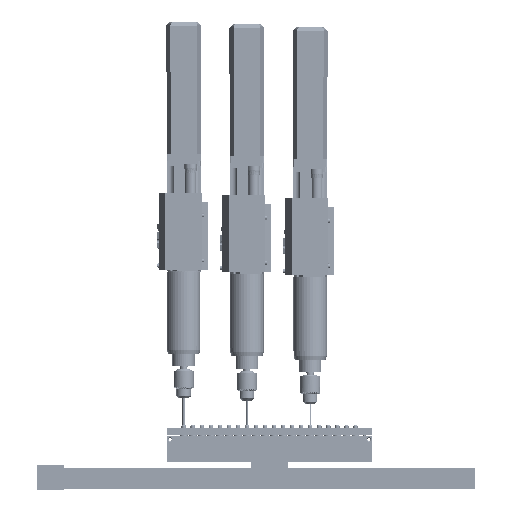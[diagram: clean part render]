
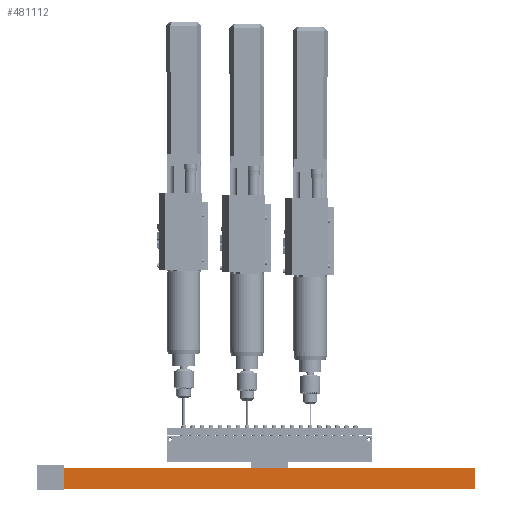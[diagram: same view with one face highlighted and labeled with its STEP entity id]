
A CAD part, front view. The second image highlights one B-rep face of the part: STEP entity #481112.
In plain terms, the highlighted planar face has unit normal (0, -1, 0).
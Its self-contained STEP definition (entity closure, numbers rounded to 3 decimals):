
#480492 = VERTEX_POINT('',#480493);
#480493 = CARTESIAN_POINT('',(-455.,-130.7,-93.8));
#480502 = PLANE('',#480503);
#480503 = AXIS2_PLACEMENT_3D('',#480504,#480505,#480506);
#480504 = CARTESIAN_POINT('',(-455.,-130.7,-139.8));
#480505 = DIRECTION('',(1.,0.,0.));
#480506 = DIRECTION('',(0.,0.,1.));
#480514 = PLANE('',#480515);
#480515 = AXIS2_PLACEMENT_3D('',#480516,#480517,#480518);
#480516 = CARTESIAN_POINT('',(-455.,-130.7,-93.8));
#480517 = DIRECTION('',(0.,0.,1.));
#480518 = DIRECTION('',(1.,0.,0.));
#480526 = EDGE_CURVE('',#480527,#480492,#480529,.T.);
#480527 = VERTEX_POINT('',#480528);
#480528 = CARTESIAN_POINT('',(-455.,-130.7,-139.8));
#480529 = SURFACE_CURVE('',#480530,(#480534,#480541),.PCURVE_S1.);
#480530 = LINE('',#480531,#480532);
#480531 = CARTESIAN_POINT('',(-455.,-130.7,-139.8));
#480532 = VECTOR('',#480533,1.);
#480533 = DIRECTION('',(0.,0.,1.));
#480534 = PCURVE('',#480502,#480535);
#480535 = DEFINITIONAL_REPRESENTATION('',(#480536),#480540);
#480536 = LINE('',#480537,#480538);
#480537 = CARTESIAN_POINT('',(0.,0.));
#480538 = VECTOR('',#480539,1.);
#480539 = DIRECTION('',(1.,0.));
#480540 = ( GEOMETRIC_REPRESENTATION_CONTEXT(2) 
PARAMETRIC_REPRESENTATION_CONTEXT() REPRESENTATION_CONTEXT('2D SPACE',''
  ) );
#480541 = PCURVE('',#480542,#480547);
#480542 = PLANE('',#480543);
#480543 = AXIS2_PLACEMENT_3D('',#480544,#480545,#480546);
#480544 = CARTESIAN_POINT('',(-455.,-130.7,-139.8));
#480545 = DIRECTION('',(0.,1.,0.));
#480546 = DIRECTION('',(0.,0.,1.));
#480547 = DEFINITIONAL_REPRESENTATION('',(#480548),#480552);
#480548 = LINE('',#480549,#480550);
#480549 = CARTESIAN_POINT('',(0.,0.));
#480550 = VECTOR('',#480551,1.);
#480551 = DIRECTION('',(1.,0.));
#480552 = ( GEOMETRIC_REPRESENTATION_CONTEXT(2) 
PARAMETRIC_REPRESENTATION_CONTEXT() REPRESENTATION_CONTEXT('2D SPACE',''
  ) );
#480570 = PLANE('',#480571);
#480571 = AXIS2_PLACEMENT_3D('',#480572,#480573,#480574);
#480572 = CARTESIAN_POINT('',(-455.,-130.7,-139.8));
#480573 = DIRECTION('',(0.,0.,1.));
#480574 = DIRECTION('',(1.,0.,0.));
#480612 = EDGE_CURVE('',#480492,#480613,#480615,.T.);
#480613 = VERTEX_POINT('',#480614);
#480614 = CARTESIAN_POINT('',(455.,-130.7,-93.8));
#480615 = SURFACE_CURVE('',#480616,(#480620,#480627),.PCURVE_S1.);
#480616 = LINE('',#480617,#480618);
#480617 = CARTESIAN_POINT('',(-455.,-130.7,-93.8));
#480618 = VECTOR('',#480619,1.);
#480619 = DIRECTION('',(1.,0.,0.));
#480620 = PCURVE('',#480514,#480621);
#480621 = DEFINITIONAL_REPRESENTATION('',(#480622),#480626);
#480622 = LINE('',#480623,#480624);
#480623 = CARTESIAN_POINT('',(0.,0.));
#480624 = VECTOR('',#480625,1.);
#480625 = DIRECTION('',(1.,0.));
#480626 = ( GEOMETRIC_REPRESENTATION_CONTEXT(2) 
PARAMETRIC_REPRESENTATION_CONTEXT() REPRESENTATION_CONTEXT('2D SPACE',''
  ) );
#480627 = PCURVE('',#480542,#480628);
#480628 = DEFINITIONAL_REPRESENTATION('',(#480629),#480633);
#480629 = LINE('',#480630,#480631);
#480630 = CARTESIAN_POINT('',(46.,0.));
#480631 = VECTOR('',#480632,1.);
#480632 = DIRECTION('',(0.,1.));
#480633 = ( GEOMETRIC_REPRESENTATION_CONTEXT(2) 
PARAMETRIC_REPRESENTATION_CONTEXT() REPRESENTATION_CONTEXT('2D SPACE',''
  ) );
#480651 = PLANE('',#480652);
#480652 = AXIS2_PLACEMENT_3D('',#480653,#480654,#480655);
#480653 = CARTESIAN_POINT('',(455.,-130.7,-139.8));
#480654 = DIRECTION('',(1.,0.,0.));
#480655 = DIRECTION('',(0.,0.,1.));
#481000 = EDGE_CURVE('',#480527,#481001,#481003,.T.);
#481001 = VERTEX_POINT('',#481002);
#481002 = CARTESIAN_POINT('',(455.,-130.7,-139.8));
#481003 = SURFACE_CURVE('',#481004,(#481008,#481015),.PCURVE_S1.);
#481004 = LINE('',#481005,#481006);
#481005 = CARTESIAN_POINT('',(-455.,-130.7,-139.8));
#481006 = VECTOR('',#481007,1.);
#481007 = DIRECTION('',(1.,0.,0.));
#481008 = PCURVE('',#480570,#481009);
#481009 = DEFINITIONAL_REPRESENTATION('',(#481010),#481014);
#481010 = LINE('',#481011,#481012);
#481011 = CARTESIAN_POINT('',(0.,0.));
#481012 = VECTOR('',#481013,1.);
#481013 = DIRECTION('',(1.,0.));
#481014 = ( GEOMETRIC_REPRESENTATION_CONTEXT(2) 
PARAMETRIC_REPRESENTATION_CONTEXT() REPRESENTATION_CONTEXT('2D SPACE',''
  ) );
#481015 = PCURVE('',#480542,#481016);
#481016 = DEFINITIONAL_REPRESENTATION('',(#481017),#481021);
#481017 = LINE('',#481018,#481019);
#481018 = CARTESIAN_POINT('',(0.,0.));
#481019 = VECTOR('',#481020,1.);
#481020 = DIRECTION('',(0.,1.));
#481021 = ( GEOMETRIC_REPRESENTATION_CONTEXT(2) 
PARAMETRIC_REPRESENTATION_CONTEXT() REPRESENTATION_CONTEXT('2D SPACE',''
  ) );
#481112 = ADVANCED_FACE('',(#481113),#480542,.F.);
#481113 = FACE_BOUND('',#481114,.F.);
#481114 = EDGE_LOOP('',(#481115,#481116,#481117,#481118));
#481115 = ORIENTED_EDGE('',*,*,#481000,.F.);
#481116 = ORIENTED_EDGE('',*,*,#480526,.T.);
#481117 = ORIENTED_EDGE('',*,*,#480612,.T.);
#481118 = ORIENTED_EDGE('',*,*,#481119,.F.);
#481119 = EDGE_CURVE('',#481001,#480613,#481120,.T.);
#481120 = SURFACE_CURVE('',#481121,(#481125,#481132),.PCURVE_S1.);
#481121 = LINE('',#481122,#481123);
#481122 = CARTESIAN_POINT('',(455.,-130.7,-139.8));
#481123 = VECTOR('',#481124,1.);
#481124 = DIRECTION('',(0.,0.,1.));
#481125 = PCURVE('',#480542,#481126);
#481126 = DEFINITIONAL_REPRESENTATION('',(#481127),#481131);
#481127 = LINE('',#481128,#481129);
#481128 = CARTESIAN_POINT('',(0.,910.));
#481129 = VECTOR('',#481130,1.);
#481130 = DIRECTION('',(1.,0.));
#481131 = ( GEOMETRIC_REPRESENTATION_CONTEXT(2) 
PARAMETRIC_REPRESENTATION_CONTEXT() REPRESENTATION_CONTEXT('2D SPACE',''
  ) );
#481132 = PCURVE('',#480651,#481133);
#481133 = DEFINITIONAL_REPRESENTATION('',(#481134),#481138);
#481134 = LINE('',#481135,#481136);
#481135 = CARTESIAN_POINT('',(0.,0.));
#481136 = VECTOR('',#481137,1.);
#481137 = DIRECTION('',(1.,0.));
#481138 = ( GEOMETRIC_REPRESENTATION_CONTEXT(2) 
PARAMETRIC_REPRESENTATION_CONTEXT() REPRESENTATION_CONTEXT('2D SPACE',''
  ) );
